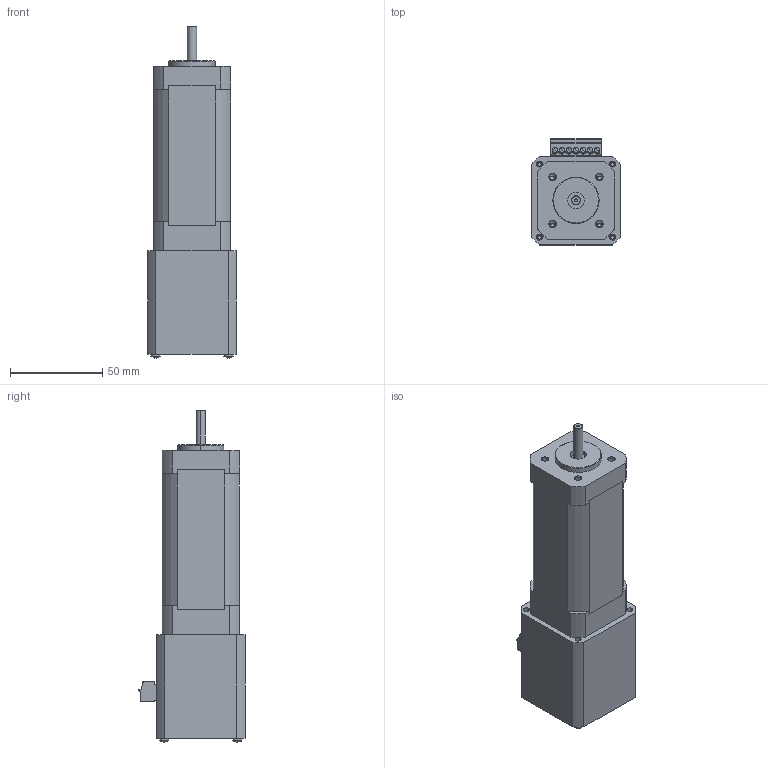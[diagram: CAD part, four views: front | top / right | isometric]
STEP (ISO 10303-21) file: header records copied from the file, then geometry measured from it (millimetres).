
FILE_DESCRIPTION (( 'STEP AP214' ), '1' );
FILE_NAME ('BLY17MD4S.STEP', '2010-06-08T22:20:44', ( 'Tim Raines' ), ( 'Anaheim Automation' ), 'SwSTEP 2.0', 'SolidWorks 2010', '' );
FILE_SCHEMA (( 'AUTOMOTIVE_DESIGN' ));
Length unit declared in the file: inch
Products named in the file (7): 1803620; 1803471; Pan Cross Head_AM_B18.6.7M - M2.5 x 0.45 x 25 Type I Cross Recessed PHMS --25S; Label for BLY17MD Series; BLY17MD Series driver_BLY17MD3,4; BLY17MD Series motor_BLY17MD4; BLY17MD4S
Assembly tree (9 placements, depth 2):
  BLY17MD4S
    Pan Cross Head_AM_B18.6.7M - M2.5 x 0.45 x 25 Type I Cross Recessed PHMS --25S  x4
    Label for BLY17MD Series
    BLY17MD Series motor_BLY17MD4
    1803471
    1803620
    BLY17MD Series driver_BLY17MD3,4
Bounding box: 48.01 x 57.51 x 179.92 mm (x, y, z)
Volume: 295771.1 mm3; surface area: 44666.5 mm2
Topology: 9 solids, 9 shells, 2824 faces, 7369 edges, 4700 vertices
Faces by surface type: plane 988, cone 931, cylinder 760, bspline 129, torus 8, sphere 8
Entity records: 77006 total; most frequent: CARTESIAN_POINT 15902, ORIENTED_EDGE 9064, DIRECTION 8694, EDGE_CURVE 4532, VERTEX_POINT 2948, LINE 2900, VECTOR 2900, AXIS2_PLACEMENT_3D 2897
